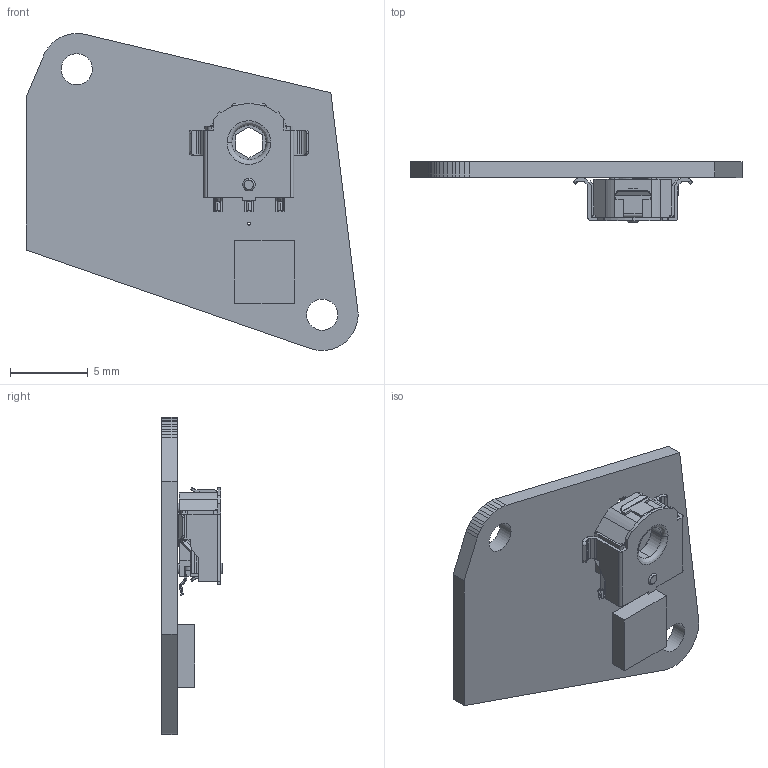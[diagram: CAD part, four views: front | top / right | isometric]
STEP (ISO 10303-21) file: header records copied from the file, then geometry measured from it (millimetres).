
FILE_DESCRIPTION(('Open CASCADE Model'),'2;1');
FILE_NAME('Open CASCADE Shape Model','2026-09-17T16:22:43',('Author'),( 'Open CASCADE'),'Open CASCADE STEP processor 7.8','Open CASCADE 7.8' ,'Unknown');
FILE_SCHEMA(('AUTOMOTIVE_DESIGN { 1 0 10303 214 1 1 1 1 }'));
Length unit declared in the file: millimetre
Products named in the file (4): encoder_populated_fit; PCB_finished_stackup_envelope; ENC1; J1
Assembly tree (3 placements, depth 2):
  encoder_populated_fit
    PCB_finished_stackup_envelope
    ENC1
    J1
Bounding box: 21.3 x 3.89 x 20.34 mm (x, y, z)
Volume: 368.8 mm3; surface area: 1008.4 mm2
Topology: 3 solids, 3 shells, 601 faces, 1611 edges, 1015 vertices
Faces by surface type: plane 214, cylinder 202, bspline 155, cone 21, sphere 7, revolution 2
Entity records: 45611 total; most frequent: CARTESIAN_POINT 16392, DIRECTION 4551, ORIENTED_EDGE 3214, PCURVE 3214, DEFINITIONAL_REPRESENTATION 3214, LINE 2773, VECTOR 2773, EDGE_CURVE 1607
